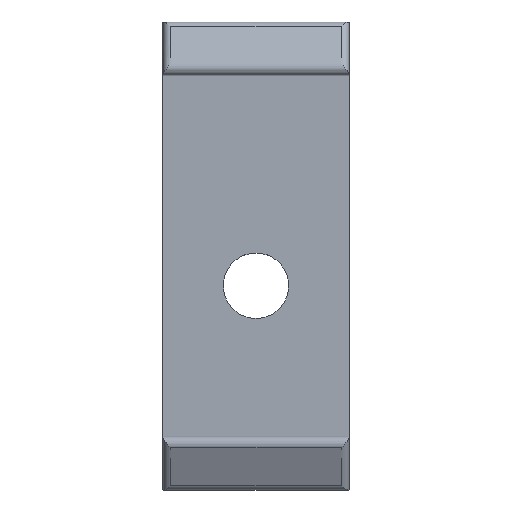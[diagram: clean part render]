
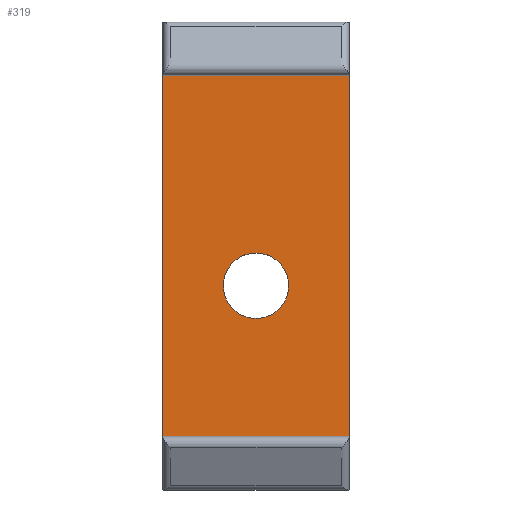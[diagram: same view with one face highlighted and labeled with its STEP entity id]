
A CAD part, top view. The second image highlights one B-rep face of the part: STEP entity #319.
In plain terms, the highlighted planar face has unit normal (0, 0, 1).
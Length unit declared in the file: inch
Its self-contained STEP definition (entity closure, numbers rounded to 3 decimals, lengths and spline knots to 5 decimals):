
#16=FACE_BOUND('',#60,.T.);
#24=PLANE('',#356);
#41=FACE_OUTER_BOUND('',#59,.T.);
#59=EDGE_LOOP('',(#285,#286,#287,#288));
#60=EDGE_LOOP('',(#289));
#71=CIRCLE('',#354,0.0825);
#90=LINE('',#493,#116);
#95=LINE('',#506,#121);
#105=LINE('',#537,#131);
#106=LINE('',#539,#132);
#116=VECTOR('',#395,0.3937);
#121=VECTOR('',#406,0.3937);
#131=VECTOR('',#440,0.3937);
#132=VECTOR('',#443,0.3937);
#145=VERTEX_POINT('',#490);
#146=VERTEX_POINT('',#492);
#151=VERTEX_POINT('',#504);
#160=VERTEX_POINT('',#535);
#161=VERTEX_POINT('',#542);
#180=EDGE_CURVE('',#146,#145,#90,.T.);
#187=EDGE_CURVE('',#145,#151,#95,.T.);
#203=EDGE_CURVE('',#151,#160,#105,.T.);
#204=EDGE_CURVE('',#160,#146,#106,.T.);
#205=EDGE_CURVE('',#161,#161,#71,.T.);
#285=ORIENTED_EDGE('',*,*,#204,.T.);
#286=ORIENTED_EDGE('',*,*,#180,.T.);
#287=ORIENTED_EDGE('',*,*,#187,.T.);
#288=ORIENTED_EDGE('',*,*,#203,.T.);
#289=ORIENTED_EDGE('',*,*,#205,.T.);
#319=ADVANCED_FACE('',(#41,#16),#24,.T.);
#354=AXIS2_PLACEMENT_3D('',#543,#448,#449);
#356=AXIS2_PLACEMENT_3D('',#546,#452,#453);
#395=DIRECTION('',(0.,-1.,0.));
#406=DIRECTION('',(1.,0.,0.));
#440=DIRECTION('',(0.,1.,0.));
#443=DIRECTION('',(-1.,0.,0.));
#448=DIRECTION('center_axis',(0.,0.,-1.));
#449=DIRECTION('ref_axis',(1.,0.,0.));
#452=DIRECTION('center_axis',(0.,0.,1.));
#453=DIRECTION('ref_axis',(1.,0.,0.));
#490=CARTESIAN_POINT('',(-0.235,-0.38,0.04));
#492=CARTESIAN_POINT('',(-0.235,0.53,0.04));
#493=CARTESIAN_POINT('',(-0.235,0.53,0.04));
#504=CARTESIAN_POINT('',(0.235,-0.38,0.04));
#506=CARTESIAN_POINT('',(0.235,-0.38,0.04));
#535=CARTESIAN_POINT('',(0.235,0.53,0.04));
#537=CARTESIAN_POINT('',(0.235,-0.38,0.04));
#539=CARTESIAN_POINT('',(0.235,0.53,0.04));
#542=CARTESIAN_POINT('',(-0.0825,0.,0.04));
#543=CARTESIAN_POINT('Origin',(0.,0.,0.04));
#546=CARTESIAN_POINT('Origin',(0.,0.075,0.04));
